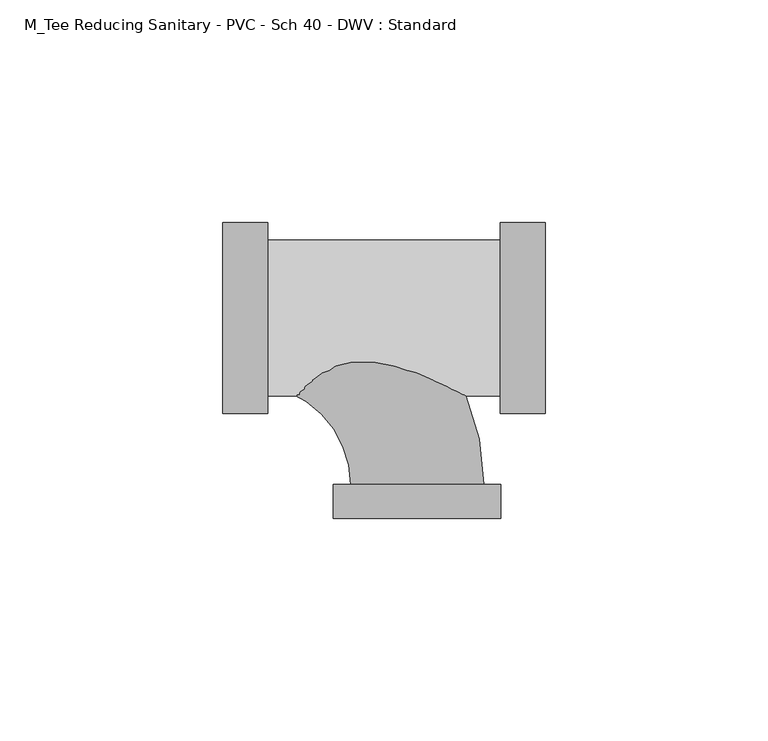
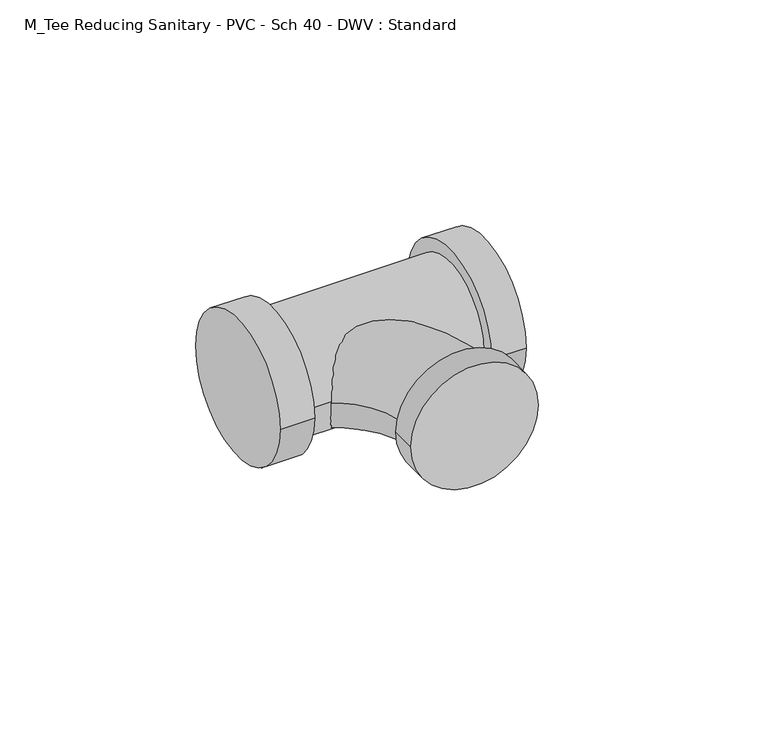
"""IFC4 building model written with IfcOpenShell, lengths in millimetres: pipe fitting geometry, M_Tee Reducing Sanitary - PVC - Sch 40 - DWV : Standard."""

from ifc_helpers import new_model, si_unit, point, frame, origin, place, context, project, spatial, circle_curve, ellipse_curve, trimmed, source, transform, mapped, element, save
from ifc_brep_helpers import plane_surface, cylinder_surface, revolved_surface, advanced_brep


def m_tee_reducing_sanitary_pvc_sch_40_dwv_standard_7913f2a5(model_context):
    return source(origin(), model_context, "Body", "AdvancedBrep", [
        advanced_brep(
        [(18.651625, -21.4871094, 0.0), (18.651625, 21.4871094, 0.0), (18.651625, -17.5640625, 0.0), (18.651625, 17.5640625, 0.0), (28.8219375, -21.4871094, 0.0), (28.8219375, 21.4871094, 0.0), (-33.5304062, 17.5640625, 0.0), (-33.5304062, -17.5640625, 0.0), (-43.7007187, -21.4871094, 0.0), (-43.7007187, 21.4871094, 0.0), (-33.5304062, -21.4871094, 0.0), (-33.5304062, 21.4871094, 0.0)],
        [
            (0, 1, circle_curve(frame((18.651625, 0.0, 0.0), z_axis=(-1.0, 0.0, 0.0), x_axis=(0.0, 1.0, 0.0)), 21.4871094)),
            (1, 0, circle_curve(frame((18.651625, 0.0, 0.0), z_axis=(-1.0, 0.0, 0.0), x_axis=(0.0, 1.0, 0.0)), 21.4871094)),
            (2, 3, circle_curve(frame((18.651625, 0.0, 0.0), z_axis=(1.0, 0.0, 0.0), x_axis=(0.0, 0.0, -1.0)), 17.5640625)),
            (3, 2, circle_curve(frame((18.651625, 0.0, 0.0), z_axis=(1.0, 0.0, 0.0), x_axis=(0.0, 0.0, 1.0)), 17.5640625)),
            (4, 5, circle_curve(frame((28.8219375, 0.0, 0.0), z_axis=(1.0, 0.0, 0.0), x_axis=(0.0, 1.0, 0.0)), 21.4871094)),
            (5, 4, circle_curve(frame((28.8219375, 0.0, 0.0), z_axis=(1.0, 0.0, 0.0), x_axis=(0.0, 1.0, 0.0)), 21.4871094)),
            (0, 4),
            (5, 1),
            (6, 3),
            (2, 7),
            (7, 6, circle_curve(frame((-33.5304062, 0.0, 0.0), z_axis=(1.0, 0.0, 0.0), x_axis=(0.0, 0.0, -1.0)), 17.5640625)),
            (6, 7, circle_curve(frame((-33.5304062, 0.0, 0.0), z_axis=(1.0, 0.0, 0.0), x_axis=(0.0, 0.0, 1.0)), 17.5640625)),
            (8, 9, circle_curve(frame((-43.7007187, 0.0, 0.0), z_axis=(-1.0, 0.0, 0.0), x_axis=(0.0, 1.0, 0.0)), 21.4871094)),
            (9, 8, circle_curve(frame((-43.7007187, 0.0, 0.0), z_axis=(-1.0, 0.0, 0.0), x_axis=(0.0, 1.0, 0.0)), 21.4871094)),
            (10, 11, circle_curve(frame((-33.5304062, 0.0, 0.0), z_axis=(1.0, 0.0, 0.0), x_axis=(0.0, 1.0, 0.0)), 21.4871094)),
            (11, 10, circle_curve(frame((-33.5304062, 0.0, 0.0), z_axis=(1.0, 0.0, 0.0), x_axis=(0.0, 1.0, 0.0)), 21.4871094)),
            (8, 10),
            (11, 9),
        ],
        [
            plane_surface(frame((18.651625, 0.0, 0.0), z_axis=(-1.0, 0.0, 0.0), x_axis=(0.0, 0.0, 1.0))),
            plane_surface(frame((28.8219375, 0.0, 0.0), z_axis=(1.0, 0.0, 0.0), x_axis=(0.0, 0.0, 1.0))),
            cylinder_surface(frame((18.651625, 0.0, 0.0), z_axis=(-1.0, 0.0, 0.0), x_axis=(0.0, 1.0, 0.0)), 21.4871094),
            cylinder_surface(frame((-33.5304062, 0.0, 0.0), z_axis=(1.0, 0.0, 0.0), x_axis=(0.0, 0.0, -1.0)), 17.5640625),
            cylinder_surface(frame((-33.5304062, 0.0, 0.0), z_axis=(1.0, 0.0, 0.0), x_axis=(0.0, 0.0, 1.0)), 17.5640625),
            plane_surface(frame((-43.7007187, 0.0, 0.0), z_axis=(-1.0, 0.0, 0.0), x_axis=(0.0, 0.0, 1.0))),
            plane_surface(frame((-33.5304062, 0.0, 0.0), z_axis=(1.0, 0.0, 0.0), x_axis=(0.0, 0.0, 1.0))),
            cylinder_surface(frame((-43.7007187, 0.0, 0.0), z_axis=(-1.0, 0.0, 0.0), x_axis=(0.0, 1.0, 0.0)), 21.4871094),
        ],
        [
            (0, [[1, 2], [3, 4]]),
            (1, [[5, 6]]),
            (2, [[-1, 7, -6, 8]]),
            (2, [[-2, -8, -5, -7]]),
            (3, [[9, -3, 10, 11]]),
            (4, [[-9, 12, -10, -4]]),
            (5, [[13, 14]]),
            (6, [[15, 16], [-11, -12]]),
            (7, [[-13, 17, -16, 18]]),
            (7, [[-14, -18, -15, -17]]),
        ],
    ),
        advanced_brep(
        [(-18.7871094, -37.3976563, 0.0), (18.7871094, -37.3976563, 0.0), (14.9640625, -37.3976563, 0.0), (-14.9640625, -37.3976563, 0.0), (-18.7871094, -45.0179688, 0.0), (18.7871094, -45.0179688, 0.0), (-37.3976562, -14.9640625, 0.0), (-37.3976562, 14.9640625, 0.0)],
        [
            (0, 1, circle_curve(frame((0.0, -37.3976563, 0.0), z_axis=(0.0, 1.0, 0.0), x_axis=(1.0, 0.0, 0.0)), 18.7871094)),
            (1, 0, circle_curve(frame((0.0, -37.3976563, 0.0), z_axis=(0.0, 1.0, 0.0), x_axis=(1.0, 0.0, 0.0)), 18.7871094)),
            (2, 3, circle_curve(frame((0.0, -37.3976563, 0.0), z_axis=(0.0, -1.0, 0.0), x_axis=(1.0, 0.0, 0.0)), 14.9640625)),
            (3, 2, circle_curve(frame((0.0, -37.3976563, 0.0), z_axis=(0.0, -1.0, 0.0), x_axis=(1.0, 0.0, 0.0)), 14.9640625)),
            (4, 5, circle_curve(frame((0.0, -45.0179688, 0.0), z_axis=(0.0, -1.0, 0.0), x_axis=(1.0, 0.0, 0.0)), 18.7871094)),
            (5, 4, circle_curve(frame((0.0, -45.0179688, 0.0), z_axis=(0.0, -1.0, 0.0), x_axis=(1.0, 0.0, 0.0)), 18.7871094)),
            (0, 4),
            (5, 1),
            (6, 7, circle_curve(frame((-37.3976562, 0.0, 0.0), z_axis=(-1.0, 0.0, 0.0), x_axis=(0.0, 1.0, 0.0)), 14.9640625)),
            (7, 6, circle_curve(frame((-37.3976562, 0.0, 0.0), z_axis=(-1.0, 0.0, 0.0), x_axis=(0.0, 1.0, 0.0)), 14.9640625)),
            (6, 3, circle_curve(frame((-37.3976562, -37.3976563, 0.0), z_axis=(0.0, 0.0, -1.0), x_axis=(0.0, 1.0, 0.0)), 22.4335938)),
            (2, 7, circle_curve(frame((-37.3976562, -37.3976563, 0.0), z_axis=(0.0, 0.0, 1.0), x_axis=(0.0, 1.0, 0.0)), 52.3617188)),
        ],
        [
            plane_surface(frame((0.0, -37.3976563, 0.0), z_axis=(0.0, 1.0, 0.0), x_axis=(0.0, 0.0, 1.0))),
            plane_surface(frame((0.0, -45.0179688, 0.0), z_axis=(0.0, -1.0, 0.0), x_axis=(0.0, 0.0, 1.0))),
            cylinder_surface(frame((0.0, -37.3976563, 0.0), z_axis=(0.0, 1.0, 0.0), x_axis=(1.0, 0.0, 0.0)), 18.7871094),
            plane_surface(frame((-37.3976562, 0.0, 0.0), z_axis=(-1.0, 0.0, 0.0), x_axis=(0.0, 0.0, 1.0))),
            revolved_surface(trimmed(ellipse_curve(frame((-37.3976562, 0.0, 0.0), z_axis=(-1.0, 0.0, 0.0), x_axis=(0.0, 1.0, 0.0)), 14.9640625, 14.9640625), [point((-37.3976562, -14.9640625, 0.0))], [point((-37.3976562, 14.9640625, 0.0))], True, "CARTESIAN"), (-37.3976562, -37.3976563, 0.0), (0.0, 0.0, -1.0)),
            revolved_surface(trimmed(ellipse_curve(frame((-37.3976562, 0.0, 0.0), z_axis=(-1.0, 0.0, 0.0), x_axis=(0.0, 1.0, 0.0)), 14.9640625, 14.9640625), [point((-37.3976562, 14.9640625, 0.0))], [point((-37.3976562, -14.9640625, 0.0))], True, "CARTESIAN"), (-37.3976562, -37.3976563, 0.0), (0.0, 0.0, -1.0)),
        ],
        [
            (0, [[1, 2], [3, 4]]),
            (1, [[5, 6]]),
            (2, [[-1, 7, -6, 8]]),
            (2, [[-2, -8, -5, -7]]),
            (3, [[9, 10]]),
            (4, [[-9, 11, -3, 12]]),
            (5, [[-10, -12, -4, -11]]),
        ],
    ),
    ])


if __name__ == "__main__":
    model = new_model("IFC4")
    model_context = context("Model", 3, world=origin())
    ifc_project = project(units=[si_unit("LENGTHUNIT", "METRE", prefix="MILLI")], contexts=[model_context])
    site = spatial("IfcSite", under=ifc_project)
    building = spatial("IfcBuilding", under=site)
    placement = place(None, origin())
    m_tee_reducing_sanitary_pvc_sch_40_dwv_standard_shape = m_tee_reducing_sanitary_pvc_sch_40_dwv_standard_7913f2a5(model_context)
    element("IfcPipeFitting", 1, ObjectType="M_Tee Reducing Sanitary - PVC - Sch 40 - DWV : Standard", at=placement, inside=building, context=model_context, shape_type="MappedRepresentation", body=[
        mapped(m_tee_reducing_sanitary_pvc_sch_40_dwv_standard_shape, transform((0.0, 0.0, 0.0), x_axis=(1.0, 0.0, 0.0), y_axis=(0.0, 1.0, 0.0), z_axis=(0.0, 0.0, 1.0))),
    ])
    save(model, "model.ifc")
